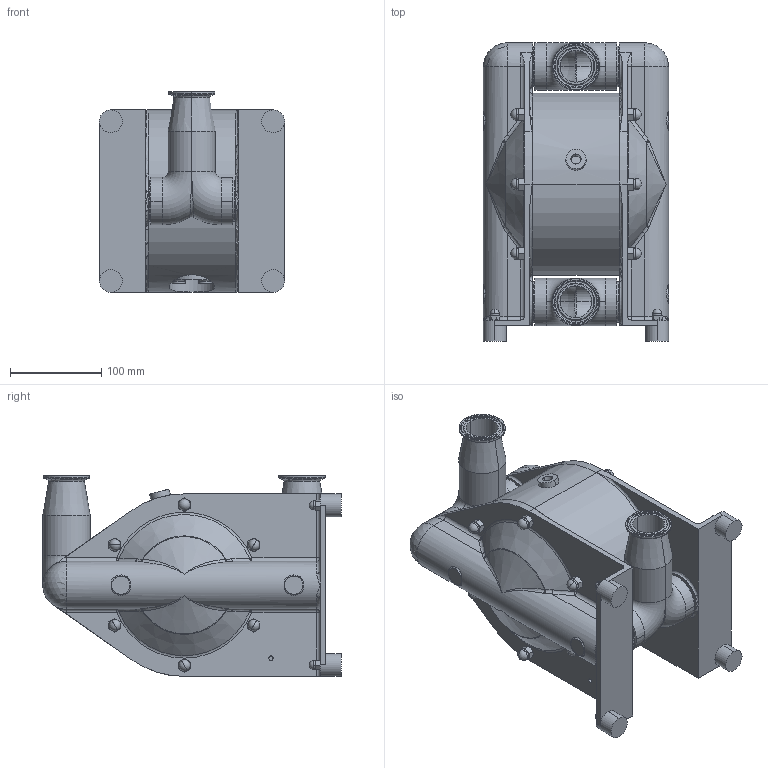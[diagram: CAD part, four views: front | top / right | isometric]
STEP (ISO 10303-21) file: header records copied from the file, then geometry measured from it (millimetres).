
FILE_DESCRIPTION((''),'2;1');
FILE_NAME('LA0007','2019-11-07T11:57:40',('10012362'),(''),'CREO PARAMETRIC BY PTC INC, 2018500','CREO PARAMETRIC BY PTC INC, 2018500','');
FILE_SCHEMA(('CONFIG_CONTROL_DESIGN'));
Length unit declared in the file: inch
Products named in the file (1): LA0007
Bounding box: 203 x 327 x 220 mm (x, y, z)
Volume: 5674872.6 mm3; surface area: 554680.1 mm2
Topology: 3 solids, 8 shells, 906 faces, 2116 edges, 1204 vertices
Faces by surface type: cone 248, plane 218, cylinder 218, torus 96, bspline 88, sphere 38
Entity records: 35801 total; most frequent: CARTESIAN_POINT 16387, ORIENTED_EDGE 4056, DIRECTION 4024, EDGE_CURVE 2028, AXIS2_PLACEMENT_3D 1784, VERTEX_POINT 1204, EDGE_LOOP 994, CIRCLE 966
